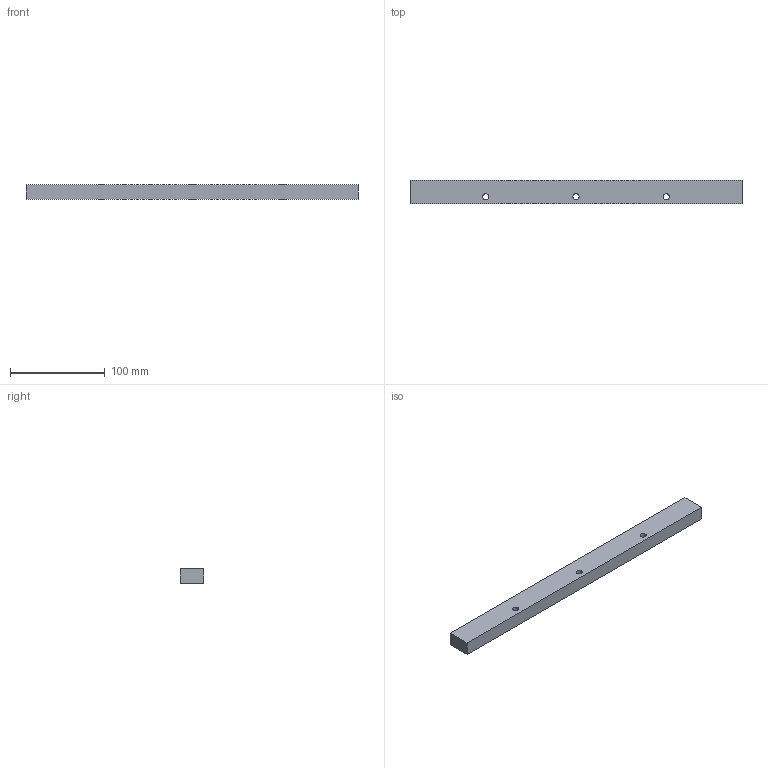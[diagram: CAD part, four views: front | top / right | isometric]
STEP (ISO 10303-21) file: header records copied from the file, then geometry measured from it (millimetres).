
FILE_DESCRIPTION (( 'STEP AP214' ), '1' );
FILE_NAME ('shelf_top_stop.STEP', '2018-06-04T17:54:37', ( '' ), ( '' ), 'SwSTEP 2.0', 'SolidWorks 2017', '' );
FILE_SCHEMA (( 'AUTOMOTIVE_DESIGN' ));
Length unit declared in the file: millimetre
Products named in the file (1): shelf_top_stop
Bounding box: 350 x 25 x 15 mm (x, y, z)
Volume: 129756.8 mm3; surface area: 29469.8 mm2
Topology: 1 solids, 1 shells, 12 faces, 30 edges, 20 vertices
Faces by surface type: cylinder 6, plane 6
Entity records: 412 total; most frequent: DIRECTION 68, CARTESIAN_POINT 63, ORIENTED_EDGE 60, EDGE_CURVE 30, AXIS2_PLACEMENT_3D 25, VERTEX_POINT 20, EDGE_LOOP 18, LINE 18
